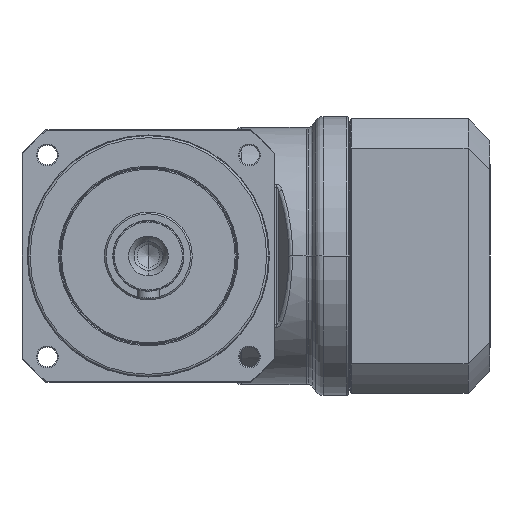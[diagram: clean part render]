
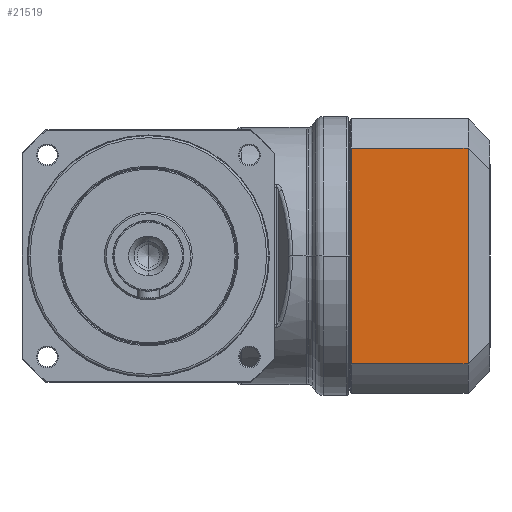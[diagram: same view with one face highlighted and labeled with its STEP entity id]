
A CAD part, left-side view. The second image highlights one B-rep face of the part: STEP entity #21519.
In plain terms, the highlighted planar face has unit normal (-1, 0, 0) as drawn and (0, -1, 0) by its records, which use the part's own axes.
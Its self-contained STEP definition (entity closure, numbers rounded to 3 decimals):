
#20273=DIRECTION('',(1.,0.,0.));
#20274=VECTOR('',#20273,98.265);
#20275=CARTESIAN_POINT('',(-49.132,-62.5,56.));
#20276=LINE('',#20275,#20274);
#20277=DIRECTION('',(0.,0.,1.));
#20278=VECTOR('',#20277,53.1);
#20279=CARTESIAN_POINT('',(49.132,-62.5,
2.9));
#20280=LINE('',#20279,#20278);
#20281=DIRECTION('',(1.,0.,0.));
#20282=VECTOR('',#20281,98.265);
#20283=CARTESIAN_POINT('',(-49.132,-62.5,
2.9));
#20284=LINE('',#20283,#20282);
#20285=DIRECTION('',(0.,0.,1.));
#20286=VECTOR('',#20285,53.1);
#20287=CARTESIAN_POINT('',(-49.132,-62.5,
2.9));
#20288=LINE('',#20287,#20286);
#20294=CARTESIAN_POINT('',(49.132,-62.5,56.));
#20609=CARTESIAN_POINT('',(-49.132,-62.5,2.9));
#20611=VERTEX_POINT('',#20609);
#20614=CARTESIAN_POINT('',(49.132,-62.5,
2.9));
#20615=VERTEX_POINT('',#20614);
#20661=CARTESIAN_POINT('',(-49.132,-62.5,56.));
#20663=VERTEX_POINT('',#20661);
#20671=VERTEX_POINT('',#20294);
#21507=CARTESIAN_POINT('',(-62.5,-62.5,0.));
#21508=DIRECTION('',(0.,-1.,0.));
#21509=DIRECTION('',(1.,0.,0.));
#21510=AXIS2_PLACEMENT_3D('',#21507,#21508,#21509);
#21511=PLANE('',#21510);
#21513=ORIENTED_EDGE('',*,*,#21512,.T.);
#21514=ORIENTED_EDGE('',*,*,#21423,.F.);
#21515=ORIENTED_EDGE('',*,*,#21501,.F.);
#21516=ORIENTED_EDGE('',*,*,#21434,.T.);
#21517=EDGE_LOOP('',(#21513,#21514,#21515,#21516));
#21518=FACE_OUTER_BOUND('',#21517,.F.);
#21519=ADVANCED_FACE('',(#21518),#21511,.T.);
#21423=EDGE_CURVE('',#20615,#20671,#20280,.T.);
#21434=EDGE_CURVE('',#20611,#20663,#20288,.T.);
#21501=EDGE_CURVE('',#20611,#20615,#20284,.T.);
#21512=EDGE_CURVE('',#20663,#20671,#20276,.T.);
